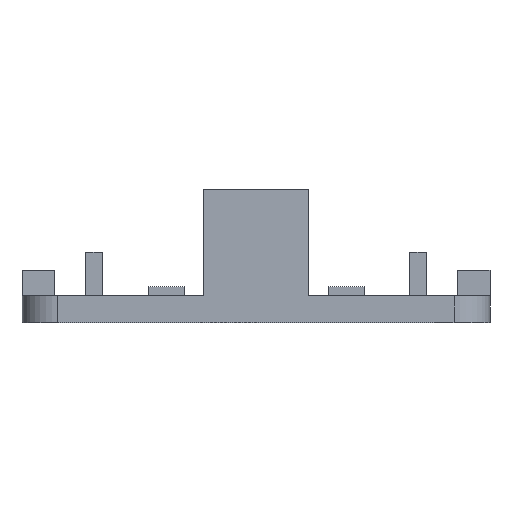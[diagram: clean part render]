
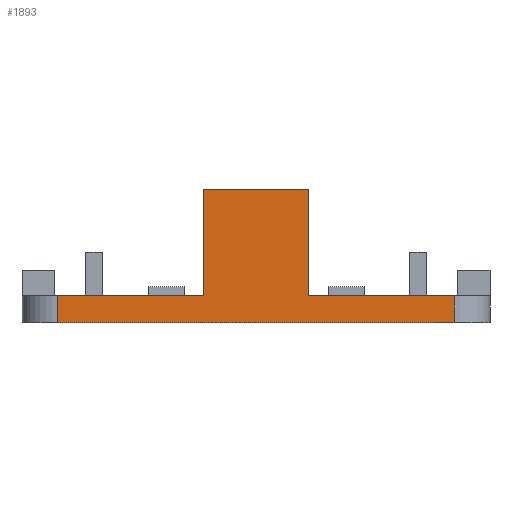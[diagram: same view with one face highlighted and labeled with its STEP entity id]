
A CAD part, left-side view. The second image highlights one B-rep face of the part: STEP entity #1893.
In plain terms, the highlighted planar face has unit normal (-1, 0, 0).
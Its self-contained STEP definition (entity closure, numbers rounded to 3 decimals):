
#44 = PLANE('',#45);
#45 = AXIS2_PLACEMENT_3D('',#46,#47,#48);
#46 = CARTESIAN_POINT('',(0.,0.,3.));
#47 = DIRECTION('',(0.,0.,-1.));
#48 = DIRECTION('',(1.,0.,0.));
#72 = CYLINDRICAL_SURFACE('',#73,4.);
#73 = AXIS2_PLACEMENT_3D('',#74,#75,#76);
#74 = CARTESIAN_POINT('',(-27.,22.,3.));
#75 = DIRECTION('',(0.,0.,-1.));
#76 = DIRECTION('',(0.,1.,0.));
#100 = PLANE('',#101);
#101 = AXIS2_PLACEMENT_3D('',#102,#103,#104);
#102 = CARTESIAN_POINT('',(0.,0.,0.));
#103 = DIRECTION('',(0.,0.,-1.));
#104 = DIRECTION('',(1.,0.,0.));
#249 = VERTEX_POINT('',#250);
#250 = CARTESIAN_POINT('',(-31.,22.,3.));
#567 = VERTEX_POINT('',#568);
#568 = CARTESIAN_POINT('',(-31.,-22.,3.));
#583 = CYLINDRICAL_SURFACE('',#584,4.);
#584 = AXIS2_PLACEMENT_3D('',#585,#586,#587);
#585 = CARTESIAN_POINT('',(-27.,-22.,3.));
#586 = DIRECTION('',(0.,0.,-1.));
#587 = DIRECTION('',(0.,-1.,0.));
#595 = EDGE_CURVE('',#567,#596,#598,.T.);
#596 = VERTEX_POINT('',#597);
#597 = CARTESIAN_POINT('',(-31.,-5.85,3.));
#598 = SURFACE_CURVE('',#599,(#603,#610),.PCURVE_S1.);
#599 = LINE('',#600,#601);
#600 = CARTESIAN_POINT('',(-31.,-26.,3.));
#601 = VECTOR('',#602,1.);
#602 = DIRECTION('',(0.,1.,0.));
#603 = PCURVE('',#44,#604);
#604 = DEFINITIONAL_REPRESENTATION('',(#605),#609);
#605 = LINE('',#606,#607);
#606 = CARTESIAN_POINT('',(-31.,26.));
#607 = VECTOR('',#608,1.);
#608 = DIRECTION('',(0.,-1.));
#609 = ( GEOMETRIC_REPRESENTATION_CONTEXT(2) 
PARAMETRIC_REPRESENTATION_CONTEXT() REPRESENTATION_CONTEXT('2D SPACE',''
  ) );
#610 = PCURVE('',#611,#616);
#611 = PLANE('',#612);
#612 = AXIS2_PLACEMENT_3D('',#613,#614,#615);
#613 = CARTESIAN_POINT('',(-31.,-26.,3.));
#614 = DIRECTION('',(1.,0.,0.));
#615 = DIRECTION('',(0.,1.,0.));
#616 = DEFINITIONAL_REPRESENTATION('',(#617),#621);
#617 = LINE('',#618,#619);
#618 = CARTESIAN_POINT('',(0.,0.));
#619 = VECTOR('',#620,1.);
#620 = DIRECTION('',(1.,0.));
#621 = ( GEOMETRIC_REPRESENTATION_CONTEXT(2) 
PARAMETRIC_REPRESENTATION_CONTEXT() REPRESENTATION_CONTEXT('2D SPACE',''
  ) );
#639 = PLANE('',#640);
#640 = AXIS2_PLACEMENT_3D('',#641,#642,#643);
#641 = CARTESIAN_POINT('',(-31.,-5.85,14.8));
#642 = DIRECTION('',(0.,-1.,0.));
#643 = DIRECTION('',(0.,0.,-1.));
#680 = VERTEX_POINT('',#681);
#681 = CARTESIAN_POINT('',(-31.,5.85,3.));
#695 = PLANE('',#696);
#696 = AXIS2_PLACEMENT_3D('',#697,#698,#699);
#697 = CARTESIAN_POINT('',(-31.,5.85,14.8));
#698 = DIRECTION('',(0.,-1.,0.));
#699 = DIRECTION('',(0.,0.,-1.));
#707 = EDGE_CURVE('',#680,#249,#708,.T.);
#708 = SURFACE_CURVE('',#709,(#713,#720),.PCURVE_S1.);
#709 = LINE('',#710,#711);
#710 = CARTESIAN_POINT('',(-31.,-26.,3.));
#711 = VECTOR('',#712,1.);
#712 = DIRECTION('',(0.,1.,0.));
#713 = PCURVE('',#44,#714);
#714 = DEFINITIONAL_REPRESENTATION('',(#715),#719);
#715 = LINE('',#716,#717);
#716 = CARTESIAN_POINT('',(-31.,26.));
#717 = VECTOR('',#718,1.);
#718 = DIRECTION('',(0.,-1.));
#719 = ( GEOMETRIC_REPRESENTATION_CONTEXT(2) 
PARAMETRIC_REPRESENTATION_CONTEXT() REPRESENTATION_CONTEXT('2D SPACE',''
  ) );
#720 = PCURVE('',#611,#721);
#721 = DEFINITIONAL_REPRESENTATION('',(#722),#726);
#722 = LINE('',#723,#724);
#723 = CARTESIAN_POINT('',(0.,0.));
#724 = VECTOR('',#725,1.);
#725 = DIRECTION('',(1.,0.));
#726 = ( GEOMETRIC_REPRESENTATION_CONTEXT(2) 
PARAMETRIC_REPRESENTATION_CONTEXT() REPRESENTATION_CONTEXT('2D SPACE',''
  ) );
#1486 = EDGE_CURVE('',#249,#1487,#1489,.T.);
#1487 = VERTEX_POINT('',#1488);
#1488 = CARTESIAN_POINT('',(-31.,22.,0.));
#1489 = SURFACE_CURVE('',#1490,(#1494,#1501),.PCURVE_S1.);
#1490 = LINE('',#1491,#1492);
#1491 = CARTESIAN_POINT('',(-31.,22.,3.));
#1492 = VECTOR('',#1493,1.);
#1493 = DIRECTION('',(0.,0.,-1.));
#1494 = PCURVE('',#72,#1495);
#1495 = DEFINITIONAL_REPRESENTATION('',(#1496),#1500);
#1496 = LINE('',#1497,#1498);
#1497 = CARTESIAN_POINT('',(-1.571,0.));
#1498 = VECTOR('',#1499,1.);
#1499 = DIRECTION('',(-0.,1.));
#1500 = ( GEOMETRIC_REPRESENTATION_CONTEXT(2) 
PARAMETRIC_REPRESENTATION_CONTEXT() REPRESENTATION_CONTEXT('2D SPACE',''
  ) );
#1501 = PCURVE('',#611,#1502);
#1502 = DEFINITIONAL_REPRESENTATION('',(#1503),#1507);
#1503 = LINE('',#1504,#1505);
#1504 = CARTESIAN_POINT('',(48.,0.));
#1505 = VECTOR('',#1506,1.);
#1506 = DIRECTION('',(0.,-1.));
#1507 = ( GEOMETRIC_REPRESENTATION_CONTEXT(2) 
PARAMETRIC_REPRESENTATION_CONTEXT() REPRESENTATION_CONTEXT('2D SPACE',''
  ) );
#1635 = VERTEX_POINT('',#1636);
#1636 = CARTESIAN_POINT('',(-31.,-22.,0.));
#1658 = EDGE_CURVE('',#1635,#1487,#1659,.T.);
#1659 = SURFACE_CURVE('',#1660,(#1664,#1671),.PCURVE_S1.);
#1660 = LINE('',#1661,#1662);
#1661 = CARTESIAN_POINT('',(-31.,-26.,0.));
#1662 = VECTOR('',#1663,1.);
#1663 = DIRECTION('',(0.,1.,0.));
#1664 = PCURVE('',#100,#1665);
#1665 = DEFINITIONAL_REPRESENTATION('',(#1666),#1670);
#1666 = LINE('',#1667,#1668);
#1667 = CARTESIAN_POINT('',(-31.,26.));
#1668 = VECTOR('',#1669,1.);
#1669 = DIRECTION('',(0.,-1.));
#1670 = ( GEOMETRIC_REPRESENTATION_CONTEXT(2) 
PARAMETRIC_REPRESENTATION_CONTEXT() REPRESENTATION_CONTEXT('2D SPACE',''
  ) );
#1671 = PCURVE('',#611,#1672);
#1672 = DEFINITIONAL_REPRESENTATION('',(#1673),#1677);
#1673 = LINE('',#1674,#1675);
#1674 = CARTESIAN_POINT('',(0.,-3.));
#1675 = VECTOR('',#1676,1.);
#1676 = DIRECTION('',(1.,0.));
#1677 = ( GEOMETRIC_REPRESENTATION_CONTEXT(2) 
PARAMETRIC_REPRESENTATION_CONTEXT() REPRESENTATION_CONTEXT('2D SPACE',''
  ) );
#1893 = ADVANCED_FACE('',(#1894),#611,.F.);
#1894 = FACE_BOUND('',#1895,.F.);
#1895 = EDGE_LOOP('',(#1896,#1897,#1918,#1919,#1920,#1921,#1944,#1972));
#1896 = ORIENTED_EDGE('',*,*,#595,.F.);
#1897 = ORIENTED_EDGE('',*,*,#1898,.T.);
#1898 = EDGE_CURVE('',#567,#1635,#1899,.T.);
#1899 = SURFACE_CURVE('',#1900,(#1904,#1911),.PCURVE_S1.);
#1900 = LINE('',#1901,#1902);
#1901 = CARTESIAN_POINT('',(-31.,-22.,3.));
#1902 = VECTOR('',#1903,1.);
#1903 = DIRECTION('',(0.,0.,-1.));
#1904 = PCURVE('',#611,#1905);
#1905 = DEFINITIONAL_REPRESENTATION('',(#1906),#1910);
#1906 = LINE('',#1907,#1908);
#1907 = CARTESIAN_POINT('',(4.,0.));
#1908 = VECTOR('',#1909,1.);
#1909 = DIRECTION('',(0.,-1.));
#1910 = ( GEOMETRIC_REPRESENTATION_CONTEXT(2) 
PARAMETRIC_REPRESENTATION_CONTEXT() REPRESENTATION_CONTEXT('2D SPACE',''
  ) );
#1911 = PCURVE('',#583,#1912);
#1912 = DEFINITIONAL_REPRESENTATION('',(#1913),#1917);
#1913 = LINE('',#1914,#1915);
#1914 = CARTESIAN_POINT('',(1.571,0.));
#1915 = VECTOR('',#1916,1.);
#1916 = DIRECTION('',(0.,1.));
#1917 = ( GEOMETRIC_REPRESENTATION_CONTEXT(2) 
PARAMETRIC_REPRESENTATION_CONTEXT() REPRESENTATION_CONTEXT('2D SPACE',''
  ) );
#1918 = ORIENTED_EDGE('',*,*,#1658,.T.);
#1919 = ORIENTED_EDGE('',*,*,#1486,.F.);
#1920 = ORIENTED_EDGE('',*,*,#707,.F.);
#1921 = ORIENTED_EDGE('',*,*,#1922,.F.);
#1922 = EDGE_CURVE('',#1923,#680,#1925,.T.);
#1923 = VERTEX_POINT('',#1924);
#1924 = CARTESIAN_POINT('',(-31.,5.85,14.8));
#1925 = SURFACE_CURVE('',#1926,(#1930,#1937),.PCURVE_S1.);
#1926 = LINE('',#1927,#1928);
#1927 = CARTESIAN_POINT('',(-31.,5.85,14.8));
#1928 = VECTOR('',#1929,1.);
#1929 = DIRECTION('',(0.,0.,-1.));
#1930 = PCURVE('',#611,#1931);
#1931 = DEFINITIONAL_REPRESENTATION('',(#1932),#1936);
#1932 = LINE('',#1933,#1934);
#1933 = CARTESIAN_POINT('',(31.85,11.8));
#1934 = VECTOR('',#1935,1.);
#1935 = DIRECTION('',(0.,-1.));
#1936 = ( GEOMETRIC_REPRESENTATION_CONTEXT(2) 
PARAMETRIC_REPRESENTATION_CONTEXT() REPRESENTATION_CONTEXT('2D SPACE',''
  ) );
#1937 = PCURVE('',#695,#1938);
#1938 = DEFINITIONAL_REPRESENTATION('',(#1939),#1943);
#1939 = LINE('',#1940,#1941);
#1940 = CARTESIAN_POINT('',(0.,0.));
#1941 = VECTOR('',#1942,1.);
#1942 = DIRECTION('',(1.,0.));
#1943 = ( GEOMETRIC_REPRESENTATION_CONTEXT(2) 
PARAMETRIC_REPRESENTATION_CONTEXT() REPRESENTATION_CONTEXT('2D SPACE',''
  ) );
#1944 = ORIENTED_EDGE('',*,*,#1945,.T.);
#1945 = EDGE_CURVE('',#1923,#1946,#1948,.T.);
#1946 = VERTEX_POINT('',#1947);
#1947 = CARTESIAN_POINT('',(-31.,-5.85,14.8));
#1948 = SURFACE_CURVE('',#1949,(#1953,#1960),.PCURVE_S1.);
#1949 = LINE('',#1950,#1951);
#1950 = CARTESIAN_POINT('',(-31.,5.85,14.8));
#1951 = VECTOR('',#1952,1.);
#1952 = DIRECTION('',(0.,-1.,0.));
#1953 = PCURVE('',#611,#1954);
#1954 = DEFINITIONAL_REPRESENTATION('',(#1955),#1959);
#1955 = LINE('',#1956,#1957);
#1956 = CARTESIAN_POINT('',(31.85,11.8));
#1957 = VECTOR('',#1958,1.);
#1958 = DIRECTION('',(-1.,0.));
#1959 = ( GEOMETRIC_REPRESENTATION_CONTEXT(2) 
PARAMETRIC_REPRESENTATION_CONTEXT() REPRESENTATION_CONTEXT('2D SPACE',''
  ) );
#1960 = PCURVE('',#1961,#1966);
#1961 = PLANE('',#1962);
#1962 = AXIS2_PLACEMENT_3D('',#1963,#1964,#1965);
#1963 = CARTESIAN_POINT('',(-31.,5.85,14.8));
#1964 = DIRECTION('',(0.,0.,-1.));
#1965 = DIRECTION('',(1.,0.,0.));
#1966 = DEFINITIONAL_REPRESENTATION('',(#1967),#1971);
#1967 = LINE('',#1968,#1969);
#1968 = CARTESIAN_POINT('',(0.,0.));
#1969 = VECTOR('',#1970,1.);
#1970 = DIRECTION('',(0.,1.));
#1971 = ( GEOMETRIC_REPRESENTATION_CONTEXT(2) 
PARAMETRIC_REPRESENTATION_CONTEXT() REPRESENTATION_CONTEXT('2D SPACE',''
  ) );
#1972 = ORIENTED_EDGE('',*,*,#1973,.T.);
#1973 = EDGE_CURVE('',#1946,#596,#1974,.T.);
#1974 = SURFACE_CURVE('',#1975,(#1979,#1986),.PCURVE_S1.);
#1975 = LINE('',#1976,#1977);
#1976 = CARTESIAN_POINT('',(-31.,-5.85,14.8));
#1977 = VECTOR('',#1978,1.);
#1978 = DIRECTION('',(0.,0.,-1.));
#1979 = PCURVE('',#611,#1980);
#1980 = DEFINITIONAL_REPRESENTATION('',(#1981),#1985);
#1981 = LINE('',#1982,#1983);
#1982 = CARTESIAN_POINT('',(20.15,11.8));
#1983 = VECTOR('',#1984,1.);
#1984 = DIRECTION('',(0.,-1.));
#1985 = ( GEOMETRIC_REPRESENTATION_CONTEXT(2) 
PARAMETRIC_REPRESENTATION_CONTEXT() REPRESENTATION_CONTEXT('2D SPACE',''
  ) );
#1986 = PCURVE('',#639,#1987);
#1987 = DEFINITIONAL_REPRESENTATION('',(#1988),#1992);
#1988 = LINE('',#1989,#1990);
#1989 = CARTESIAN_POINT('',(0.,0.));
#1990 = VECTOR('',#1991,1.);
#1991 = DIRECTION('',(1.,0.));
#1992 = ( GEOMETRIC_REPRESENTATION_CONTEXT(2) 
PARAMETRIC_REPRESENTATION_CONTEXT() REPRESENTATION_CONTEXT('2D SPACE',''
  ) );
